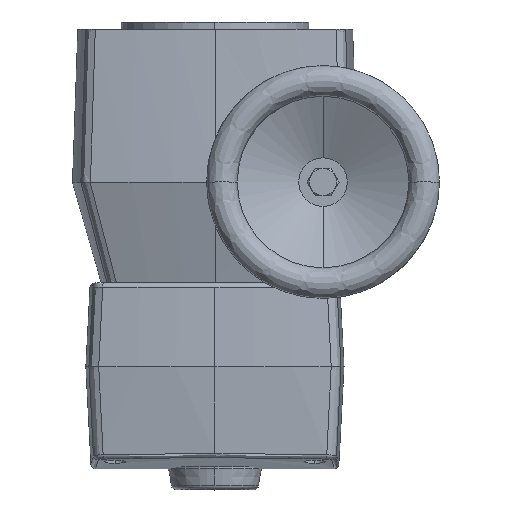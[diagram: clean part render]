
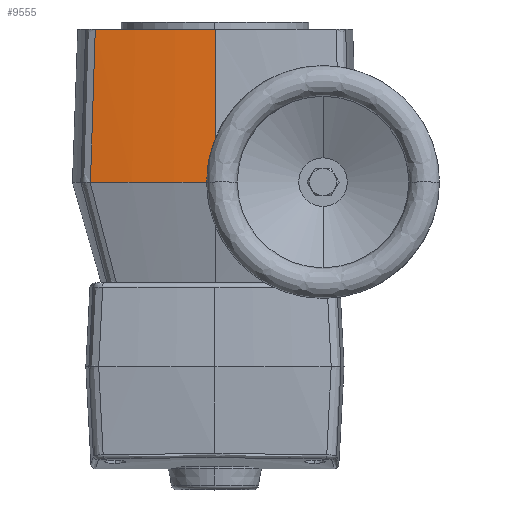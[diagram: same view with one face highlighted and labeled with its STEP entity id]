
A CAD part, top view. The second image highlights one B-rep face of the part: STEP entity #9555.
In plain terms, the highlighted free-form (B-spline) face has degree [1, 2] with [2, 9] control points.
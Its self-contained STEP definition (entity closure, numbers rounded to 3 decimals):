
#8441=CARTESIAN_POINT('',(0.394,-86.,76.672));
#8442=VERTEX_POINT('',#8441);
#8443=CARTESIAN_POINT('',(0.393,-4.,73.809));
#8444=VERTEX_POINT('',#8443);
#8445=CARTESIAN_POINT('',(0.394,-86.,76.672));
#8446=DIRECTION('',(0.,0.999,-0.035));
#8447=VECTOR('',#8446,82.05);
#8448=LINE('',#8445,#8447);
#8449=EDGE_CURVE('',#8442,#8444,#8448,.T.);
#8554=CARTESIAN_POINT('',(-66.801,-86.,72.174));
#8555=VERTEX_POINT('',#8554);
#8556=CARTESIAN_POINT('',(0.229,-86.,-424.997));
#8557=DIRECTION('',(0.,-1.,0.));
#8558=DIRECTION('',(0.,0.,1.));
#8559=AXIS2_PLACEMENT_3D('',#8556,#8557,#8558);
#8560=CIRCLE('',#8559,501.67);
#8561=EDGE_CURVE('',#8442,#8555,#8560,.T.);
#9335=CARTESIAN_POINT('',(-64.224,-4.,69.627));
#9336=VERTEX_POINT('',#9335);
#9350=CARTESIAN_POINT('',(0.229,-4.,-424.997));
#9351=DIRECTION('',(0.,-1.,0.));
#9352=DIRECTION('',(0.,0.,1.));
#9353=AXIS2_PLACEMENT_3D('',#9350,#9351,#9352);
#9354=CIRCLE('',#9353,498.806);
#9355=EDGE_CURVE('',#8444,#9336,#9354,.T.);
#9495=CARTESIAN_POINT('',(-66.801,-86.,72.174));
#9496=CARTESIAN_POINT('',(-66.664,-81.633,72.039));
#9497=CARTESIAN_POINT('',(-66.527,-77.267,71.903));
#9498=CARTESIAN_POINT('',(-66.39,-72.9,71.768));
#9499=CARTESIAN_POINT('',(-66.215,-67.329,71.595));
#9500=CARTESIAN_POINT('',(-66.04,-61.759,71.422));
#9501=CARTESIAN_POINT('',(-65.865,-56.188,71.249));
#9502=CARTESIAN_POINT('',(-65.74,-52.208,71.126));
#9503=CARTESIAN_POINT('',(-65.615,-48.229,71.002));
#9504=CARTESIAN_POINT('',(-65.49,-44.25,70.879));
#9505=CARTESIAN_POINT('',(-65.428,-42.26,70.817));
#9506=CARTESIAN_POINT('',(-65.365,-40.271,70.755));
#9507=CARTESIAN_POINT('',(-65.303,-38.281,70.693));
#9508=CARTESIAN_POINT('',(-65.215,-35.496,70.607));
#9509=CARTESIAN_POINT('',(-65.128,-32.71,70.52));
#9510=CARTESIAN_POINT('',(-65.04,-29.925,70.433));
#9511=CARTESIAN_POINT('',(-64.917,-26.025,70.312));
#9512=CARTESIAN_POINT('',(-64.795,-22.125,70.191));
#9513=CARTESIAN_POINT('',(-64.672,-18.226,70.07));
#9514=CARTESIAN_POINT('',(-64.523,-13.484,69.922));
#9515=CARTESIAN_POINT('',(-64.374,-8.742,69.775));
#9516=CARTESIAN_POINT('',(-64.224,-4.,69.627));
#9517=B_SPLINE_CURVE_WITH_KNOTS('',3,(#9495,#9496,#9497,#9498,#9499,#9500,#9501,#9502,#9503,#9504,#9505,#9506,#9507,#9508,#9509,#9510,#9511,#9512,#9513,#9514,#9515,#9516),.UNSPECIFIED.,.F.,.U.,(4,3,3,3,3,3,3,4),(6.007,19.119,35.848,47.797,53.772,62.136,73.846,88.086),.UNSPECIFIED.);
#9518=EDGE_CURVE('',#9336,#8555,#9517,.F.);
#9523=CARTESIAN_POINT('',(0.063,-86.001,-926.667));
#9524=CARTESIAN_POINT('',(0.064,-3.999,-923.803));
#9525=CARTESIAN_POINT('',(501.733,-86.001,-926.832));
#9526=CARTESIAN_POINT('',(498.87,-3.999,-923.968));
#9527=CARTESIAN_POINT('',(501.898,-86.001,-425.163));
#9528=CARTESIAN_POINT('',(499.035,-3.999,-425.162));
#9529=CARTESIAN_POINT('',(502.064,-86.001,76.507));
#9530=CARTESIAN_POINT('',(499.199,-3.999,73.644));
#9531=CARTESIAN_POINT('',(0.394,-86.001,76.672));
#9532=CARTESIAN_POINT('',(0.393,-3.999,73.809));
#9533=CARTESIAN_POINT('',(-501.275,-86.001,76.838));
#9534=CARTESIAN_POINT('',(-498.413,-3.999,73.973));
#9535=CARTESIAN_POINT('',(-501.441,-86.001,-424.832));
#9536=CARTESIAN_POINT('',(-498.577,-3.999,-424.833));
#9537=CARTESIAN_POINT('',(-501.606,-86.001,-926.501));
#9538=CARTESIAN_POINT('',(-498.742,-3.999,-923.638));
#9539=CARTESIAN_POINT('',(0.063,-86.001,-926.667));
#9540=CARTESIAN_POINT('',(0.064,-3.999,-923.803));
#9548=(BOUNDED_SURFACE()B_SPLINE_SURFACE(1,2,((#9523,#9525,#9527,#9529,#9531,#9533,#9535,#9537,#9539),(#9524,#9526,#9528,#9530,#9532,#9534,#9536,#9538,#9540)),.UNSPECIFIED.,.F.,.T.,.U.)B_SPLINE_SURFACE_WITH_KNOTS((2,2),(3,2,2,2,3),(0.,0.164),(0.0,788.021,1576.041,2364.062,3152.083),.UNSPECIFIED.)GEOMETRIC_REPRESENTATION_ITEM()RATIONAL_B_SPLINE_SURFACE(((1.0,0.707,1.0,0.707,1.0,0.707,1.0,0.707,1.0),(1.0,0.707,1.0,0.707,1.0,0.707,1.0,0.707,1.0)))REPRESENTATION_ITEM('')SURFACE());
#9549=ORIENTED_EDGE('',*,*,#8449,.T.);
#9550=ORIENTED_EDGE('',*,*,#9355,.T.);
#9551=ORIENTED_EDGE('',*,*,#9518,.T.);
#9552=ORIENTED_EDGE('',*,*,#8561,.F.);
#9553=EDGE_LOOP('',(#9549,#9550,#9551,#9552));
#9554=FACE_OUTER_BOUND('',#9553,.T.);
#9555=ADVANCED_FACE('',(#9554),#9548,.T.);
